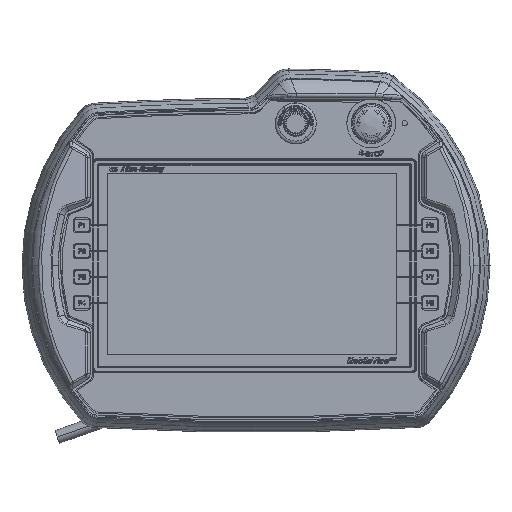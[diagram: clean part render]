
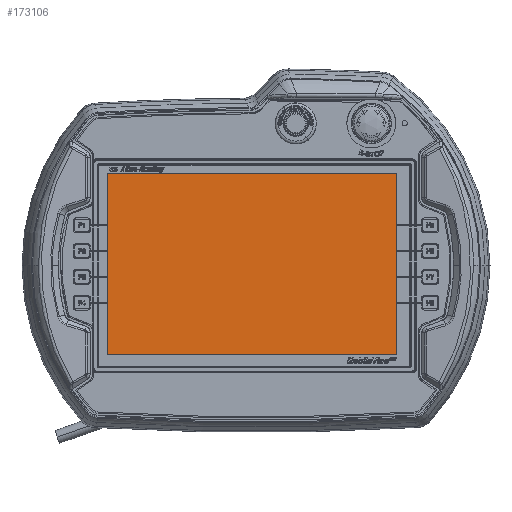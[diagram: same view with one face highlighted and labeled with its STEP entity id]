
A CAD part, top view. The second image highlights one B-rep face of the part: STEP entity #173106.
In plain terms, the highlighted planar face has unit normal (0, 0, -1).
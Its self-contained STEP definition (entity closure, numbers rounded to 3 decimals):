
#7556=DIRECTION('',(0.,-1.,0.));
#7557=VECTOR('',#7556,136.6);
#7558=CARTESIAN_POINT('',(106.,69.2,17.639));
#7559=LINE('',#7558,#7557);
#59930=DIRECTION('',(0.,1.,0.));
#59931=VECTOR('',#59930,136.6);
#59932=CARTESIAN_POINT('',(-112.,-67.4,17.639));
#59933=LINE('',#59932,#59931);
#59946=DIRECTION('',(-1.,0.,0.));
#59947=VECTOR('',#59946,218.);
#59948=CARTESIAN_POINT('',(106.,-67.4,17.639));
#59949=LINE('',#59948,#59947);
#59950=DIRECTION('',(1.,0.,0.));
#59951=VECTOR('',#59950,218.);
#59952=CARTESIAN_POINT('',(-112.,69.2,17.639));
#59953=LINE('',#59952,#59951);
#78282=CARTESIAN_POINT('',(-112.,69.2,17.639));
#78283=CARTESIAN_POINT('',(106.,69.2,17.639));
#78284=VERTEX_POINT('',#78282);
#78285=VERTEX_POINT('',#78283);
#78286=CARTESIAN_POINT('',(106.,-67.4,17.639));
#78287=VERTEX_POINT('',#78286);
#78288=CARTESIAN_POINT('',(-112.,-67.4,17.639));
#78289=VERTEX_POINT('',#78288);
#173094=CARTESIAN_POINT('',(-3.,0.9,17.639));
#173095=DIRECTION('',(0.,0.,-1.));
#173096=DIRECTION('',(-1.,0.,0.));
#173097=AXIS2_PLACEMENT_3D('',#173094,#173095,#173096);
#173098=PLANE('',#173097);
#173100=ORIENTED_EDGE('',*,*,#173099,.F.);
#173101=ORIENTED_EDGE('',*,*,#173044,.F.);
#173102=ORIENTED_EDGE('',*,*,#173088,.F.);
#173103=ORIENTED_EDGE('',*,*,#87495,.F.);
#173104=EDGE_LOOP('',(#173100,#173101,#173102,#173103));
#173105=FACE_OUTER_BOUND('',#173104,.F.);
#173106=ADVANCED_FACE('',(#173105),#173098,.T.);
#87495=EDGE_CURVE('',#78285,#78287,#7559,.T.);
#173044=EDGE_CURVE('',#78289,#78284,#59933,.T.);
#173088=EDGE_CURVE('',#78287,#78289,#59949,.T.);
#173099=EDGE_CURVE('',#78284,#78285,#59953,.T.);
